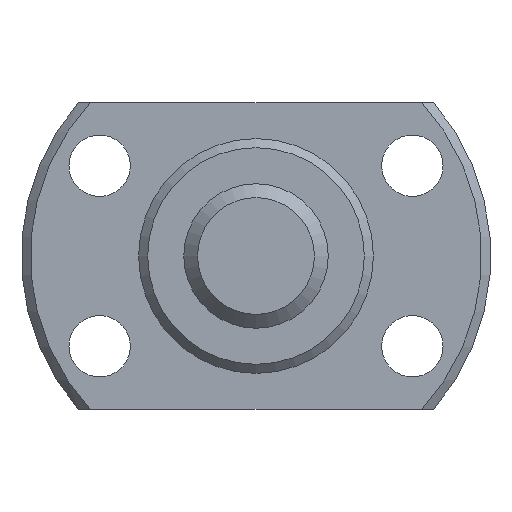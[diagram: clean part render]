
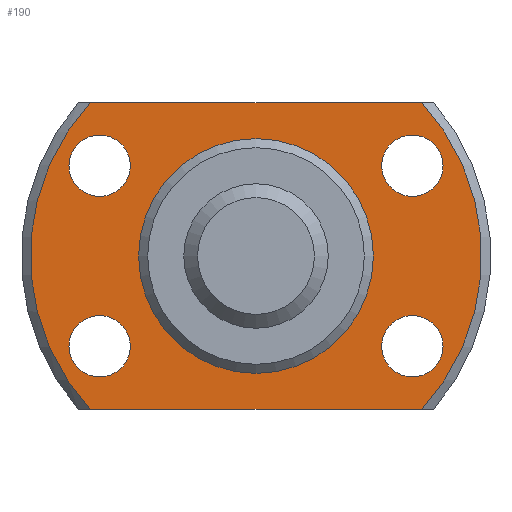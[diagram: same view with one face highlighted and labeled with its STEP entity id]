
A CAD part, left-side view. The second image highlights one B-rep face of the part: STEP entity #190.
In plain terms, the highlighted planar face has unit normal (-1, 0, 0) as drawn and (1, 0, 0) by its records, which use the part's own axes.
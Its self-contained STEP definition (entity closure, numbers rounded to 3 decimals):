
#190 = ADVANCED_FACE( '', ( #263, #264, #265, #266, #267, #268 ), #269, .T. );
#263 = FACE_OUTER_BOUND( '', #373, .T. );
#264 = FACE_BOUND( '', #374, .T. );
#265 = FACE_BOUND( '', #375, .T. );
#266 = FACE_BOUND( '', #376, .T. );
#267 = FACE_BOUND( '', #377, .T. );
#268 = FACE_BOUND( '', #378, .T. );
#269 = PLANE( '', #379 );
#373 = EDGE_LOOP( '', ( #558, #559, #560, #561 ) );
#374 = EDGE_LOOP( '', ( #562 ) );
#375 = EDGE_LOOP( '', ( #563 ) );
#376 = EDGE_LOOP( '', ( #564 ) );
#377 = EDGE_LOOP( '', ( #565 ) );
#378 = EDGE_LOOP( '', ( #566 ) );
#379 = AXIS2_PLACEMENT_3D( '', #567, #568, #569 );
#558 = ORIENTED_EDGE( '', *, *, #712, .T. );
#559 = ORIENTED_EDGE( '', *, *, #714, .T. );
#560 = ORIENTED_EDGE( '', *, *, #716, .T. );
#561 = ORIENTED_EDGE( '', *, *, #717, .T. );
#562 = ORIENTED_EDGE( '', *, *, #718, .F. );
#563 = ORIENTED_EDGE( '', *, *, #719, .F. );
#564 = ORIENTED_EDGE( '', *, *, #720, .F. );
#565 = ORIENTED_EDGE( '', *, *, #721, .F. );
#566 = ORIENTED_EDGE( '', *, *, #722, .F. );
#567 = CARTESIAN_POINT( '', ( 4., 6.3, 0. ) );
#568 = DIRECTION( '', ( 1., 0., 0. ) );
#569 = DIRECTION( '', ( 0., 0., -1. ) );
#712 = EDGE_CURVE( '', #792, #805, #807, .T. );
#714 = EDGE_CURVE( '', #805, #808, #811, .T. );
#716 = EDGE_CURVE( '', #808, #813, #814, .T. );
#717 = EDGE_CURVE( '', #813, #792, #815, .T. );
#718 = EDGE_CURVE( '', #816, #816, #817, .T. );
#719 = EDGE_CURVE( '', #818, #818, #819, .T. );
#720 = EDGE_CURVE( '', #820, #820, #821, .T. );
#721 = EDGE_CURVE( '', #822, #822, #823, .T. );
#722 = EDGE_CURVE( '', #824, #824, #825, .T. );
#792 = VERTEX_POINT( '', #920 );
#805 = VERTEX_POINT( '', #945 );
#807 = LINE( '', #950, #951 );
#808 = VERTEX_POINT( '', #952 );
#811 = CIRCLE( '', #958, 12.5 );
#813 = VERTEX_POINT( '', #960 );
#814 = LINE( '', #961, #962 );
#815 = CIRCLE( '', #963, 12.5 );
#816 = VERTEX_POINT( '', #964 );
#817 = CIRCLE( '', #965, 6.3 );
#818 = VERTEX_POINT( '', #966 );
#819 = CIRCLE( '', #967, 1.7 );
#820 = VERTEX_POINT( '', #968 );
#821 = CIRCLE( '', #969, 1.7 );
#822 = VERTEX_POINT( '', #970 );
#823 = CIRCLE( '', #971, 1.7 );
#824 = VERTEX_POINT( '', #972 );
#825 = CIRCLE( '', #973, 1.7 );
#920 = CARTESIAN_POINT( '', ( 4., -9.165, -8.5 ) );
#945 = CARTESIAN_POINT( '', ( 4., 9.165, -8.5 ) );
#950 = CARTESIAN_POINT( '', ( 4., -13., -8.5 ) );
#951 = VECTOR( '', #1086, 1000. );
#952 = CARTESIAN_POINT( '', ( 4., 9.165, 8.5 ) );
#958 = AXIS2_PLACEMENT_3D( '', #1087, #1088, #1089 );
#960 = CARTESIAN_POINT( '', ( 4., -9.165, 8.5 ) );
#961 = CARTESIAN_POINT( '', ( 4., 13., 8.5 ) );
#962 = VECTOR( '', #1093, 1000. );
#963 = AXIS2_PLACEMENT_3D( '', #1094, #1095, #1096 );
#964 = CARTESIAN_POINT( '', ( 4., 0., -6.3 ) );
#965 = AXIS2_PLACEMENT_3D( '', #1097, #1098, #1099 );
#966 = CARTESIAN_POINT( '', ( 4., 8.66, 3.3 ) );
#967 = AXIS2_PLACEMENT_3D( '', #1100, #1101, #1102 );
#968 = CARTESIAN_POINT( '', ( 4., -8.66, 3.3 ) );
#969 = AXIS2_PLACEMENT_3D( '', #1103, #1104, #1105 );
#970 = CARTESIAN_POINT( '', ( 4., -8.66, -6.7 ) );
#971 = AXIS2_PLACEMENT_3D( '', #1106, #1107, #1108 );
#972 = CARTESIAN_POINT( '', ( 4., 8.66, -6.7 ) );
#973 = AXIS2_PLACEMENT_3D( '', #1109, #1110, #1111 );
#1086 = DIRECTION( '', ( 0., 1., 0. ) );
#1087 = CARTESIAN_POINT( '', ( 4., 0., 0. ) );
#1088 = DIRECTION( '', ( 1., 0., 0. ) );
#1089 = DIRECTION( '', ( 0., 0., -1. ) );
#1093 = DIRECTION( '', ( 0., -1., 0. ) );
#1094 = CARTESIAN_POINT( '', ( 4., 0., 0. ) );
#1095 = DIRECTION( '', ( 1., 0., 0. ) );
#1096 = DIRECTION( '', ( 0., 0., -1. ) );
#1097 = CARTESIAN_POINT( '', ( 4., 0., 0. ) );
#1098 = DIRECTION( '', ( 1., 0., 0. ) );
#1099 = DIRECTION( '', ( 0., 0., -1. ) );
#1100 = CARTESIAN_POINT( '', ( 4., 8.66, 5. ) );
#1101 = DIRECTION( '', ( 1., 0., 0. ) );
#1102 = DIRECTION( '', ( 0., 0., -1. ) );
#1103 = CARTESIAN_POINT( '', ( 4., -8.66, 5. ) );
#1104 = DIRECTION( '', ( 1., 0., 0. ) );
#1105 = DIRECTION( '', ( 0., 0., -1. ) );
#1106 = CARTESIAN_POINT( '', ( 4., -8.66, -5. ) );
#1107 = DIRECTION( '', ( 1., 0., 0. ) );
#1108 = DIRECTION( '', ( 0., 0., -1. ) );
#1109 = CARTESIAN_POINT( '', ( 4., 8.66, -5. ) );
#1110 = DIRECTION( '', ( 1., 0., 0. ) );
#1111 = DIRECTION( '', ( 0., 0., -1. ) );
